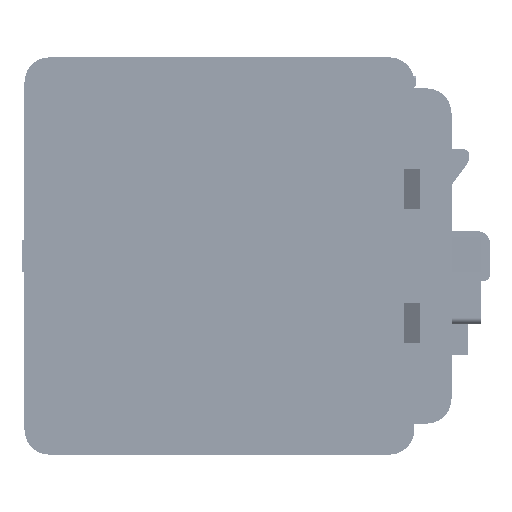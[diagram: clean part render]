
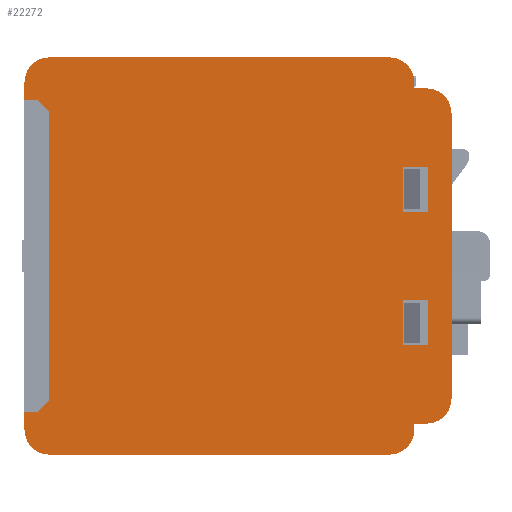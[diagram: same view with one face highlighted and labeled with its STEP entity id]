
A CAD part, left-side view. The second image highlights one B-rep face of the part: STEP entity #22272.
In plain terms, the highlighted planar face has unit normal (-1, 0, 0).
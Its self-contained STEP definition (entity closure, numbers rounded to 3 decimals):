
#85=DIRECTION('',(0.,-1.,0.));
#86=VECTOR('',#85,27.4);
#87=CARTESIAN_POINT('',(-18.05,31.3,-16.));
#88=LINE('',#87,#86);
#291=DIRECTION('',(0.,-1.,0.));
#292=VECTOR('',#291,27.4);
#293=CARTESIAN_POINT('',(-18.05,31.3,16.));
#294=LINE('',#293,#292);
#7716=DIRECTION('',(0.,-0.707,-0.707));
#7717=VECTOR('',#7716,1.414);
#7718=CARTESIAN_POINT('',(-18.05,32.3,12.6));
#7719=LINE('',#7718,#7717);
#7740=DIRECTION('',(0.,-1.,0.));
#7741=VECTOR('',#7740,1.);
#7742=CARTESIAN_POINT('',(-18.05,33.3,12.6));
#7743=LINE('',#7742,#7741);
#7752=DIRECTION('',(0.,1.,0.));
#7753=VECTOR('',#7752,2.);
#7754=CARTESIAN_POINT('',(-18.05,0.8,-7.15));
#7755=LINE('',#7754,#7753);
#7756=DIRECTION('',(0.,0.,-1.));
#7757=VECTOR('',#7756,3.6);
#7758=CARTESIAN_POINT('',(-18.05,0.8,-3.55));
#7759=LINE('',#7758,#7757);
#7760=DIRECTION('',(0.,-1.,0.));
#7761=VECTOR('',#7760,2.);
#7762=CARTESIAN_POINT('',(-18.05,2.8,-3.55));
#7763=LINE('',#7762,#7761);
#7764=DIRECTION('',(0.,0.,1.));
#7765=VECTOR('',#7764,3.6);
#7766=CARTESIAN_POINT('',(-18.05,2.8,-7.15));
#7767=LINE('',#7766,#7765);
#7768=DIRECTION('',(0.,0.,-1.));
#7769=VECTOR('',#7768,3.6);
#7770=CARTESIAN_POINT('',(-18.05,0.8,7.15));
#7771=LINE('',#7770,#7769);
#7772=DIRECTION('',(0.,-1.,0.));
#7773=VECTOR('',#7772,2.);
#7774=CARTESIAN_POINT('',(-18.05,2.8,7.15));
#7775=LINE('',#7774,#7773);
#7776=DIRECTION('',(0.,0.,1.));
#7777=VECTOR('',#7776,3.6);
#7778=CARTESIAN_POINT('',(-18.05,2.8,3.55));
#7779=LINE('',#7778,#7777);
#7780=DIRECTION('',(0.,1.,0.));
#7781=VECTOR('',#7780,2.);
#7782=CARTESIAN_POINT('',(-18.05,0.8,3.55));
#7783=LINE('',#7782,#7781);
#7784=DIRECTION('',(0.,0.,-1.));
#7785=VECTOR('',#7784,23.2);
#7786=CARTESIAN_POINT('',(-18.05,31.3,11.6));
#7787=LINE('',#7786,#7785);
#7788=DIRECTION('',(0.,0.,1.));
#7789=VECTOR('',#7788,1.4);
#7790=CARTESIAN_POINT('',(-18.05,33.3,12.6));
#7791=LINE('',#7790,#7789);
#7792=CARTESIAN_POINT('',(-18.05,31.3,14.));
#7793=DIRECTION('',(-1.,0.,0.));
#7794=DIRECTION('',(0.,0.,1.));
#7795=AXIS2_PLACEMENT_3D('',#7792,#7793,#7794);
#7797=CARTESIAN_POINT('',(-18.05,3.9,14.));
#7798=DIRECTION('',(-1.,0.,0.));
#7799=DIRECTION('',(0.,-1.,0.));
#7800=AXIS2_PLACEMENT_3D('',#7797,#7798,#7799);
#7802=DIRECTION('',(0.,0.,-1.));
#7803=VECTOR('',#7802,0.5);
#7804=CARTESIAN_POINT('',(-18.05,1.9,14.));
#7805=LINE('',#7804,#7803);
#7806=DIRECTION('',(0.,1.,0.));
#7807=VECTOR('',#7806,1.);
#7808=CARTESIAN_POINT('',(-18.05,0.9,13.5));
#7809=LINE('',#7808,#7807);
#7810=CARTESIAN_POINT('',(-18.05,0.9,11.5));
#7811=DIRECTION('',(-1.,0.,0.));
#7812=DIRECTION('',(0.,-1.,0.));
#7813=AXIS2_PLACEMENT_3D('',#7810,#7811,#7812);
#7815=CARTESIAN_POINT('',(-18.05,0.9,-11.5));
#7816=DIRECTION('',(-1.,0.,0.));
#7817=DIRECTION('',(0.,0.,-1.));
#7818=AXIS2_PLACEMENT_3D('',#7815,#7816,#7817);
#7820=DIRECTION('',(0.,1.,0.));
#7821=VECTOR('',#7820,1.);
#7822=CARTESIAN_POINT('',(-18.05,0.9,-13.5));
#7823=LINE('',#7822,#7821);
#7824=DIRECTION('',(0.,0.,1.));
#7825=VECTOR('',#7824,0.5);
#7826=CARTESIAN_POINT('',(-18.05,1.9,-14.));
#7827=LINE('',#7826,#7825);
#7828=CARTESIAN_POINT('',(-18.05,3.9,-14.));
#7829=DIRECTION('',(-1.,0.,0.));
#7830=DIRECTION('',(0.,0.,-1.));
#7831=AXIS2_PLACEMENT_3D('',#7828,#7829,#7830);
#7833=CARTESIAN_POINT('',(-18.05,31.3,-14.));
#7834=DIRECTION('',(-1.,0.,0.));
#7835=DIRECTION('',(0.,1.,0.));
#7836=AXIS2_PLACEMENT_3D('',#7833,#7834,#7835);
#7838=DIRECTION('',(0.,0.,1.));
#7839=VECTOR('',#7838,1.4);
#7840=CARTESIAN_POINT('',(-18.05,33.3,-14.));
#7841=LINE('',#7840,#7839);
#7890=DIRECTION('',(0.,1.,0.));
#7891=VECTOR('',#7890,1.);
#7892=CARTESIAN_POINT('',(-18.05,32.3,-12.6));
#7893=LINE('',#7892,#7891);
#7906=DIRECTION('',(0.,0.707,-0.707));
#7907=VECTOR('',#7906,1.414);
#7908=CARTESIAN_POINT('',(-18.05,31.3,-11.6));
#7909=LINE('',#7908,#7907);
#7950=DIRECTION('',(0.,0.,1.));
#7951=VECTOR('',#7950,23.);
#7952=CARTESIAN_POINT('',(-18.05,-1.1,-11.5));
#7953=LINE('',#7952,#7951);
#10053=CARTESIAN_POINT('',(-18.05,0.8,-7.15));
#10055=VERTEX_POINT('',#10053);
#10057=CARTESIAN_POINT('',(-18.05,2.8,-7.15));
#10059=VERTEX_POINT('',#10057);
#10061=CARTESIAN_POINT('',(-18.05,2.8,-3.55));
#10063=VERTEX_POINT('',#10061);
#10065=CARTESIAN_POINT('',(-18.05,0.8,-3.55));
#10067=VERTEX_POINT('',#10065);
#10069=CARTESIAN_POINT('',(-18.05,0.8,7.15));
#10071=VERTEX_POINT('',#10069);
#10073=CARTESIAN_POINT('',(-18.05,0.8,3.55));
#10075=VERTEX_POINT('',#10073);
#10077=CARTESIAN_POINT('',(-18.05,2.8,3.55));
#10079=VERTEX_POINT('',#10077);
#10081=CARTESIAN_POINT('',(-18.05,2.8,7.15));
#10083=VERTEX_POINT('',#10081);
#10090=CARTESIAN_POINT('',(-18.05,1.9,-13.5));
#10092=VERTEX_POINT('',#10090);
#10098=CARTESIAN_POINT('',(-18.05,1.9,13.5));
#10100=VERTEX_POINT('',#10098);
#10118=CARTESIAN_POINT('',(-18.05,33.3,12.6));
#10120=VERTEX_POINT('',#10118);
#10138=CARTESIAN_POINT('',(-18.05,33.3,-12.6));
#10140=VERTEX_POINT('',#10138);
#10325=CARTESIAN_POINT('',(-18.05,-1.1,11.5));
#10326=CARTESIAN_POINT('',(-18.05,0.9,13.5));
#10327=VERTEX_POINT('',#10325);
#10328=VERTEX_POINT('',#10326);
#10337=CARTESIAN_POINT('',(-18.05,0.9,-13.5));
#10338=VERTEX_POINT('',#10337);
#10339=CARTESIAN_POINT('',(-18.05,-1.1,-11.5));
#10340=VERTEX_POINT('',#10339);
#10365=CARTESIAN_POINT('',(-18.05,3.9,-16.));
#10366=CARTESIAN_POINT('',(-18.05,1.9,-14.));
#10367=VERTEX_POINT('',#10365);
#10368=VERTEX_POINT('',#10366);
#10385=CARTESIAN_POINT('',(-18.05,1.9,14.));
#10386=VERTEX_POINT('',#10385);
#10387=CARTESIAN_POINT('',(-18.05,3.9,16.));
#10388=VERTEX_POINT('',#10387);
#10425=CARTESIAN_POINT('',(-18.05,33.3,-14.));
#10426=VERTEX_POINT('',#10425);
#10427=CARTESIAN_POINT('',(-18.05,31.3,-16.));
#10428=VERTEX_POINT('',#10427);
#10461=CARTESIAN_POINT('',(-18.05,31.3,16.));
#10462=CARTESIAN_POINT('',(-18.05,33.3,14.));
#10463=VERTEX_POINT('',#10461);
#10464=VERTEX_POINT('',#10462);
#10926=CARTESIAN_POINT('',(-18.05,31.3,11.6));
#10928=VERTEX_POINT('',#10926);
#10930=CARTESIAN_POINT('',(-18.05,32.3,12.6));
#10932=VERTEX_POINT('',#10930);
#10933=CARTESIAN_POINT('',(-18.05,31.3,-11.6));
#10935=VERTEX_POINT('',#10933);
#10937=CARTESIAN_POINT('',(-18.05,32.3,-12.6));
#10939=VERTEX_POINT('',#10937);
#22212=CARTESIAN_POINT('',(-18.05,33.3,-16.));
#22213=DIRECTION('',(-1.,0.,0.));
#22214=DIRECTION('',(0.,-1.,0.));
#22215=AXIS2_PLACEMENT_3D('',#22212,#22213,#22214);
#22216=PLANE('',#22215);
#22218=ORIENTED_EDGE('',*,*,#22217,.F.);
#22220=ORIENTED_EDGE('',*,*,#22219,.F.);
#22221=ORIENTED_EDGE('',*,*,#21837,.F.);
#22222=ORIENTED_EDGE('',*,*,#22133,.F.);
#22223=ORIENTED_EDGE('',*,*,#22195,.F.);
#22224=ORIENTED_EDGE('',*,*,#21635,.T.);
#22226=ORIENTED_EDGE('',*,*,#22225,.F.);
#22227=ORIENTED_EDGE('',*,*,#12032,.T.);
#22229=ORIENTED_EDGE('',*,*,#22228,.F.);
#22231=ORIENTED_EDGE('',*,*,#22230,.T.);
#22233=ORIENTED_EDGE('',*,*,#22232,.F.);
#22235=ORIENTED_EDGE('',*,*,#22234,.F.);
#22237=ORIENTED_EDGE('',*,*,#22236,.F.);
#22239=ORIENTED_EDGE('',*,*,#22238,.F.);
#22241=ORIENTED_EDGE('',*,*,#22240,.T.);
#22243=ORIENTED_EDGE('',*,*,#22242,.F.);
#22245=ORIENTED_EDGE('',*,*,#22244,.F.);
#22246=ORIENTED_EDGE('',*,*,#11642,.F.);
#22248=ORIENTED_EDGE('',*,*,#22247,.F.);
#22249=ORIENTED_EDGE('',*,*,#21566,.T.);
#22250=EDGE_LOOP('',(#22218,#22220,#22221,#22222,#22223,#22224,#22226,#22227,
#22229,#22231,#22233,#22235,#22237,#22239,#22241,#22243,#22245,#22246,#22248,
#22249));
#22251=FACE_OUTER_BOUND('',#22250,.F.);
#22253=ORIENTED_EDGE('',*,*,#22252,.F.);
#22255=ORIENTED_EDGE('',*,*,#22254,.F.);
#22257=ORIENTED_EDGE('',*,*,#22256,.F.);
#22259=ORIENTED_EDGE('',*,*,#22258,.F.);
#22260=EDGE_LOOP('',(#22253,#22255,#22257,#22259));
#22261=FACE_BOUND('',#22260,.F.);
#22263=ORIENTED_EDGE('',*,*,#22262,.F.);
#22265=ORIENTED_EDGE('',*,*,#22264,.F.);
#22267=ORIENTED_EDGE('',*,*,#22266,.F.);
#22269=ORIENTED_EDGE('',*,*,#22268,.F.);
#22270=EDGE_LOOP('',(#22263,#22265,#22267,#22269));
#22271=FACE_BOUND('',#22270,.F.);
#22272=ADVANCED_FACE('',(#22251,#22261,#22271),#22216,.T.);
#7796=CIRCLE('',#7795,2.);
#7801=CIRCLE('',#7800,2.);
#7814=CIRCLE('',#7813,2.);
#7819=CIRCLE('',#7818,2.);
#7832=CIRCLE('',#7831,2.);
#7837=CIRCLE('',#7836,2.);
#11642=EDGE_CURVE('',#10428,#10367,#88,.T.);
#12032=EDGE_CURVE('',#10463,#10388,#294,.T.);
#21566=EDGE_CURVE('',#10426,#10140,#7841,.T.);
#21635=EDGE_CURVE('',#10120,#10464,#7791,.T.);
#21837=EDGE_CURVE('',#10928,#10935,#7787,.T.);
#22133=EDGE_CURVE('',#10932,#10928,#7719,.T.);
#22195=EDGE_CURVE('',#10120,#10932,#7743,.T.);
#22217=EDGE_CURVE('',#10939,#10140,#7893,.T.);
#22219=EDGE_CURVE('',#10935,#10939,#7909,.T.);
#22225=EDGE_CURVE('',#10463,#10464,#7796,.T.);
#22228=EDGE_CURVE('',#10386,#10388,#7801,.T.);
#22230=EDGE_CURVE('',#10386,#10100,#7805,.T.);
#22232=EDGE_CURVE('',#10328,#10100,#7809,.T.);
#22234=EDGE_CURVE('',#10327,#10328,#7814,.T.);
#22236=EDGE_CURVE('',#10340,#10327,#7953,.T.);
#22238=EDGE_CURVE('',#10338,#10340,#7819,.T.);
#22240=EDGE_CURVE('',#10338,#10092,#7823,.T.);
#22242=EDGE_CURVE('',#10368,#10092,#7827,.T.);
#22244=EDGE_CURVE('',#10367,#10368,#7832,.T.);
#22247=EDGE_CURVE('',#10426,#10428,#7837,.T.);
#22252=EDGE_CURVE('',#10071,#10075,#7771,.T.);
#22254=EDGE_CURVE('',#10083,#10071,#7775,.T.);
#22256=EDGE_CURVE('',#10079,#10083,#7779,.T.);
#22258=EDGE_CURVE('',#10075,#10079,#7783,.T.);
#22262=EDGE_CURVE('',#10055,#10059,#7755,.T.);
#22264=EDGE_CURVE('',#10067,#10055,#7759,.T.);
#22266=EDGE_CURVE('',#10063,#10067,#7763,.T.);
#22268=EDGE_CURVE('',#10059,#10063,#7767,.T.);
